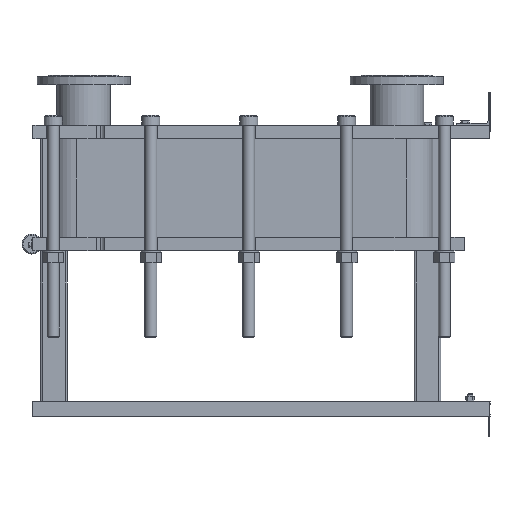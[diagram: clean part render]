
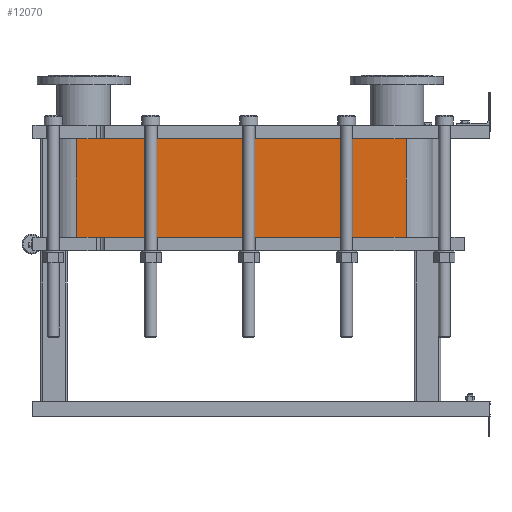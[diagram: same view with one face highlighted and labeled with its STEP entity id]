
A CAD part, left-side view. The second image highlights one B-rep face of the part: STEP entity #12070.
In plain terms, the highlighted planar face has unit normal (-1, 0, 0).
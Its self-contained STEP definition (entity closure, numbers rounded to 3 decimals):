
#1064=LINE('',#21140,#2164);
#1065=LINE('',#21144,#2165);
#1066=LINE('',#21146,#2166);
#1067=LINE('',#21147,#2167);
#2164=VECTOR('',#15790,10.);
#2165=VECTOR('',#15795,10.);
#2166=VECTOR('',#15796,10.);
#2167=VECTOR('',#15797,10.);
#3304=FACE_OUTER_BOUND('',#4091,.T.);
#4091=EDGE_LOOP('',(#9793,#9794,#9795,#9796));
#5677=VERTEX_POINT('',#21137);
#5678=VERTEX_POINT('',#21139);
#5679=VERTEX_POINT('',#21143);
#5680=VERTEX_POINT('',#21145);
#7118=EDGE_CURVE('',#5678,#5677,#1064,.T.);
#7120=EDGE_CURVE('',#5677,#5679,#1065,.T.);
#7121=EDGE_CURVE('',#5680,#5679,#1066,.T.);
#7122=EDGE_CURVE('',#5680,#5678,#1067,.T.);
#9793=ORIENTED_EDGE('',*,*,#7120,.T.);
#9794=ORIENTED_EDGE('',*,*,#7121,.F.);
#9795=ORIENTED_EDGE('',*,*,#7122,.T.);
#9796=ORIENTED_EDGE('',*,*,#7118,.T.);
#11441=PLANE('',#13191);
#12070=ADVANCED_FACE('',(#3304),#11441,.T.);
#13191=AXIS2_PLACEMENT_3D('',#21142,#15793,#15794);
#15790=DIRECTION('',(0.,0.,-1.));
#15793=DIRECTION('center_axis',(-1.,0.,0.));
#15794=DIRECTION('ref_axis',(0.,1.,0.));
#15795=DIRECTION('',(0.,-1.,0.));
#15796=DIRECTION('',(0.,0.,-1.));
#15797=DIRECTION('',(0.,1.,0.));
#21137=CARTESIAN_POINT('',(-248.152,1243.818,-296.7));
#21139=CARTESIAN_POINT('',(-248.152,1243.818,0.));
#21140=CARTESIAN_POINT('',(-248.152,1243.818,0.));
#21142=CARTESIAN_POINT('Origin',(-248.152,251.818,0.));
#21143=CARTESIAN_POINT('',(-248.152,251.818,-296.7));
#21144=CARTESIAN_POINT('',(-248.152,499.818,-296.7));
#21145=CARTESIAN_POINT('',(-248.152,251.818,0.));
#21146=CARTESIAN_POINT('',(-248.152,251.818,0.));
#21147=CARTESIAN_POINT('',(-248.152,251.818,0.));
